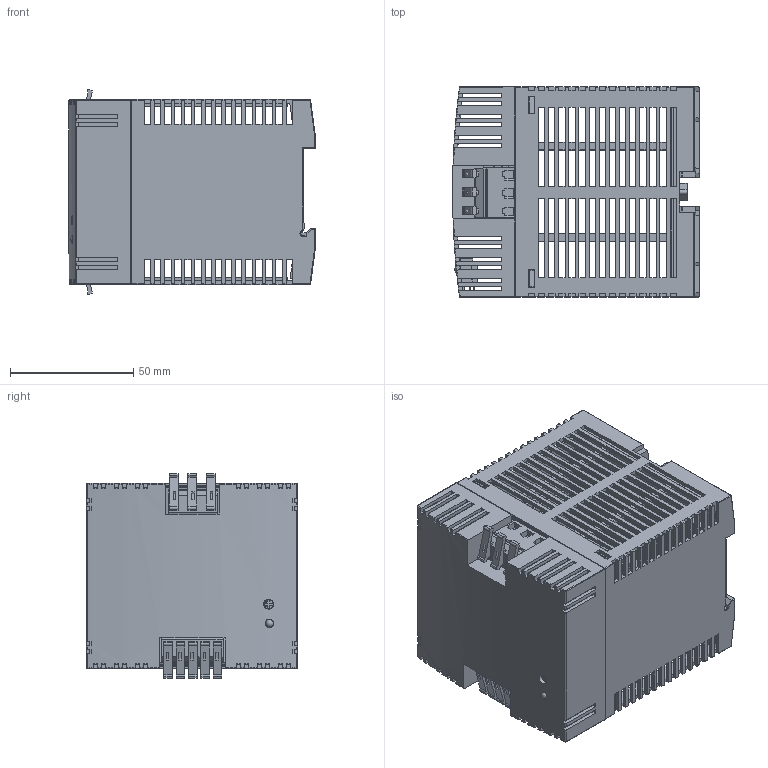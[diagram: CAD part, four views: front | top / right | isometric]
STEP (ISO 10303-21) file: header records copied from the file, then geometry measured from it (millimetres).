
FILE_DESCRIPTION(/* description */ ('Unknown'),/* implementation_level */ '2;1');
FILE_NAME(/* name */ 'TCL 120-124_C',/* time_stamp */ '2020-11-24T13:14:03+00:00',/* author */ ('Unknown'),/* organization */ ('Unknown'),/* preprocessor_version */ 'ST-DEVELOPER v16.7',/* originating_system */ 'Solid Edge',/* authorisation */ 'Unknown');
FILE_SCHEMA (('AP203_CONFIGURATION_CONTROLLED_3D_DESIGN_OF_MECHANICAL_PARTS_AND_ASSEMBLIES_MIM_LF { 1 0 10303 203 3 1 4 }','AUTOMOTIVE_DESIGN {1 0 10303 214 3 1 1}'));
Products named in the file (1): TCL 120-124_C
Bounding box: 99.98 x 85.5 x 82.95 mm (x, y, z)
Volume: 84404.7 mm3; surface area: 92675.7 mm2
Topology: 4 solids, 4 shells, 1759 faces, 5620 edges, 3620 vertices
Faces by surface type: plane 1518, cylinder 188, torus 36, sphere 11, cone 4, bspline 2
Full cylindrical faces by diameter (mm): 0.305 x2, 0.5 x2, 0.508 x3, 3 x1, 3.5 x1, 3.708 x1, 3.861 x1, 4 x1, 5.41 x1, 6.401 x1, 6.502 x1
Entity records: 74218 total; most frequent: CARTESIAN_POINT 11777, ORIENTED_EDGE 11158, DIRECTION 9579, EDGE_CURVE 5579, LINE 4953, VECTOR 4953, VERTEX_POINT 3612, AXIS2_PLACEMENT_3D 2313
